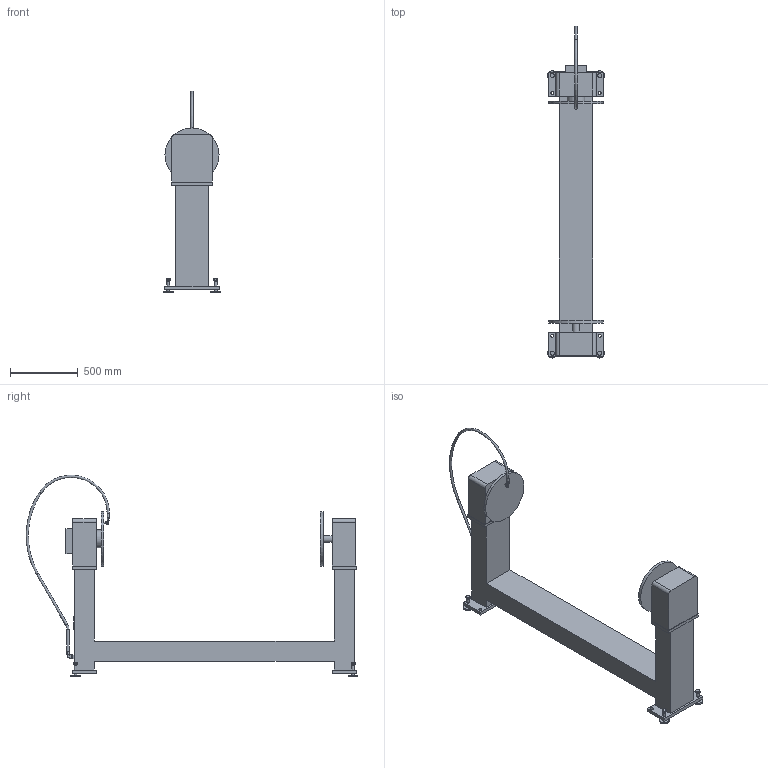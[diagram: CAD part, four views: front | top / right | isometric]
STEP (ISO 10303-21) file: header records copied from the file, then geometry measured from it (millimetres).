
FILE_DESCRIPTION((''),'2;1');
FILE_NAME('H:\Machine construction\Products\Layout symbols\Positioners\HSD\013156-100 HSD-250 SNM (STEP).stp','2008-01-31T13:16:34',('Kristian'),(''),'Autodesk Inventor 2008','Autodesk Inventor 2008','');
FILE_SCHEMA(('AUTOMOTIVE_DESIGN { 1 0 10303 214 1 1 1 1 }'));
Length unit declared in the file: millimetre
Products named in the file (23): 013156- HSD-250 SNM (iAssy).iam<No details>; 114925-100 Stativ (bearbetning) (iAssy) (No details); 114925-100 Stativ (low-res); 114929-100 Drivdocka 250 kg (No details); 114928-100 Drivdocka 250kg (low-res); 114933-100 Stöddocka (No details); 114933-100 Stöddocka (low-res); 314033 Kopplingsplint; 314034 Platta; 413951 Kopparledare; 6005016 MF6S 6x16; 6026009 BRB M10; 6002068 MC6S 10x25; 406025 Fotbricka; 6001043 M6S 20x80; 6026006 BRB M6; 6002030 MC6S 6x20; 013155 Återledare -01; 013155 Svetskabel -01; 8220018 Kabelsko 70-10; 6002070 MC6S 10x35; 6022010 LM6M Låsmutter M10; 411503 Maskinskylt
Assembly tree (36 placements, depth 3):
  013156- HSD-250 SNM (iAssy).iam<No details>
    114925-100 Stativ (bearbetning) (iAssy) (No details)
      114925-100 Stativ (low-res)
    114929-100 Drivdocka 250 kg (No details)
      114928-100 Drivdocka 250kg (low-res)
    114933-100 Stöddocka (No details)
      114933-100 Stöddocka (low-res)
    314033 Kopplingsplint
      314034 Platta
      413951 Kopparledare
      6005016 MF6S 6x16  x2
      6026009 BRB M10  x3
      6002068 MC6S 10x25  x3
    406025 Fotbricka  x4
    6001043 M6S 20x80  x4
    6026006 BRB M6  x2
    6002030 MC6S 6x20  x2
    013155 Återledare -01
      013155 Svetskabel -01
      8220018 Kabelsko 70-10  x2
    6002070 MC6S 10x35
    6022010 LM6M Låsmutter M10
    411503 Maskinskylt
Bounding box: 420 x 2454.51 x 1492.08 mm (x, y, z)
Volume: 173471247.2 mm3; surface area: 4727754.7 mm2
Topology: 33 solids, 33 shells, 463 faces, 1023 edges, 661 vertices
Faces by surface type: plane 243, cylinder 127, cone 49, bspline 35, torus 5, sphere 4
Full cylindrical faces by diameter (mm): 5 x2, 6 x6, 6.4 x2, 7 x4, 8.376 x3, 10 x10, 10.5 x3, 11.34 x2, 12 x2, 15.6 x1, 16 x4, 17 x3, 20 x11, 28.19 x4, 50 x1, 70 x4, 133 x1, 400 x2
Entity records: 8539 total; most frequent: CARTESIAN_POINT 2000, DIRECTION 1250, ORIENTED_EDGE 1026, EDGE_CURVE 513, AXIS2_PLACEMENT_3D 490, EDGE_LOOP 417, VERTEX_POINT 378, FACE_OUTER_BOUND 274
